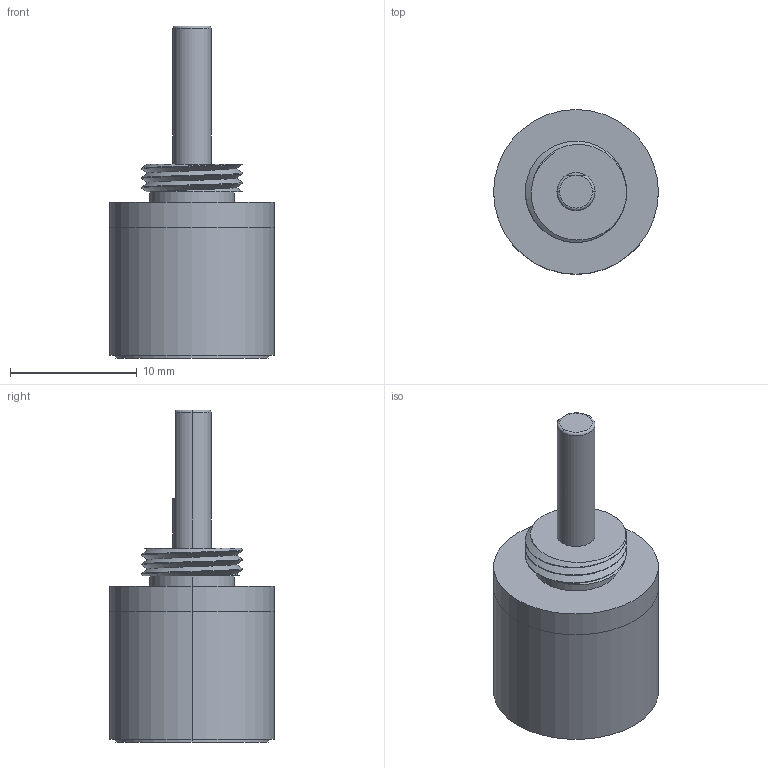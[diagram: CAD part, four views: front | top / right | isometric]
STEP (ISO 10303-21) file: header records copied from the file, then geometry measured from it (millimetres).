
FILE_DESCRIPTION (( 'STEP AP203' ), '1' );
FILE_NAME ('IG-13(II)-1stage.STEP', '2023-03-27T01:56:22', ( '' ), ( '' ), 'SwSTEP 2.0', 'SolidWorks 2019', '' );
FILE_SCHEMA (( 'CONFIG_CONTROL_DESIGN' ));
Length unit declared in the file: millimetre
Products named in the file (1): IG-13(II)-1stage
Bounding box: 13 x 13 x 26.2 mm (x, y, z)
Volume: 2046.4 mm3; surface area: 1394.2 mm2
Topology: 2 solids, 2 shells, 40 faces, 84 edges, 55 vertices
Faces by surface type: cylinder 22, plane 13, torus 3, bspline 2
Entity records: 1645 total; most frequent: CARTESIAN_POINT 724, DIRECTION 184, ORIENTED_EDGE 168, EDGE_CURVE 84, AXIS2_PLACEMENT_3D 80, VERTEX_POINT 55, EDGE_LOOP 47, CIRCLE 41
